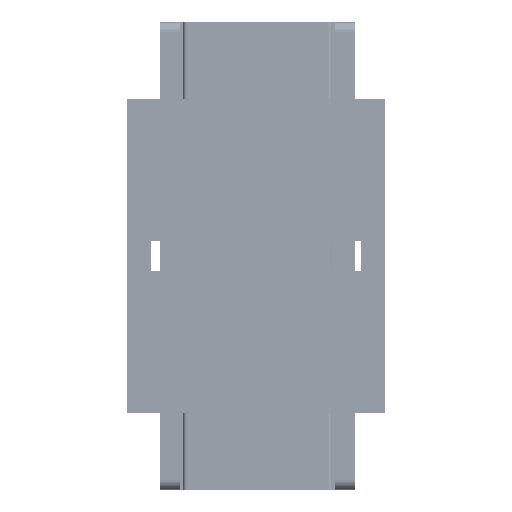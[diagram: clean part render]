
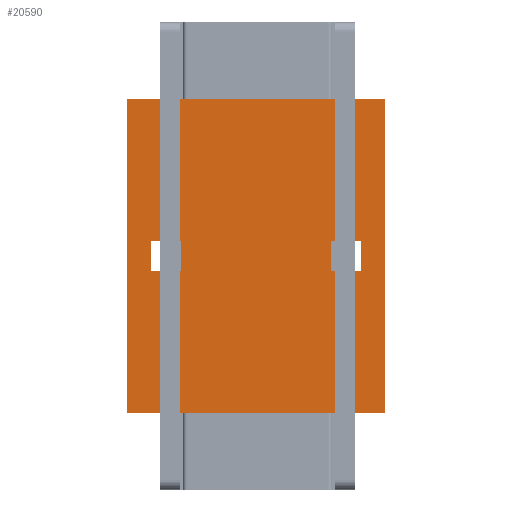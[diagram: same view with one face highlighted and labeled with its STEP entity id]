
A CAD part, front view. The second image highlights one B-rep face of the part: STEP entity #20590.
In plain terms, the highlighted planar face has unit normal (0, -1, 0).
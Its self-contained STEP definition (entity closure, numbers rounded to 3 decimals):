
#219 = EDGE_CURVE ( 'NONE', #34051, #22193, #33786, .T. ) ;
#791 = EDGE_LOOP ( 'NONE', ( #35468, #40361, #14147, #18637 ) ) ;
#1664 = CARTESIAN_POINT ( 'NONE',  ( 4.2, -93., -3. ) ) ;
#2142 = VERTEX_POINT ( 'NONE', #8225 ) ;
#2928 = VECTOR ( 'NONE', #13190, 1000. ) ;
#4402 = EDGE_CURVE ( 'NONE', #9375, #25699, #19380, .T. ) ;
#5137 = VERTEX_POINT ( 'NONE', #10314 ) ;
#5160 = CARTESIAN_POINT ( 'NONE',  ( -3.8, -93., -31.5 ) ) ;
#5878 = DIRECTION ( 'NONE',  ( -1., 0., 0. ) ) ;
#5898 = CARTESIAN_POINT ( 'NONE',  ( 40.2, -93., 3. ) ) ;
#6950 = EDGE_CURVE ( 'NONE', #2142, #37486, #29074, .T. ) ;
#8225 = CARTESIAN_POINT ( 'NONE',  ( 40.2, -93., 3. ) ) ;
#8622 = CARTESIAN_POINT ( 'NONE',  ( -6.8, -93., 17. ) ) ;
#8776 = LINE ( 'NONE', #8622, #2928 ) ;
#9076 = CARTESIAN_POINT ( 'NONE',  ( 40.2, -93., -3. ) ) ;
#9375 = VERTEX_POINT ( 'NONE', #46416 ) ;
#9765 = EDGE_CURVE ( 'NONE', #22193, #42831, #48608, .T. ) ;
#10314 = CARTESIAN_POINT ( 'NONE',  ( 34.2, -93., 3. ) ) ;
#10975 = EDGE_CURVE ( 'NONE', #16653, #9375, #51895, .T. ) ;
#11245 = VECTOR ( 'NONE', #30960, 1000. ) ;
#11889 = VECTOR ( 'NONE', #22171, 1000. ) ;
#11944 = CARTESIAN_POINT ( 'NONE',  ( 4.2, -93., -3. ) ) ;
#12071 = CARTESIAN_POINT ( 'NONE',  ( 41.2, -93., 0. ) ) ;
#13086 = ORIENTED_EDGE ( 'NONE', *, *, #14339, .F. ) ;
#13190 = DIRECTION ( 'NONE',  ( 0., 0., 1. ) ) ;
#13211 = LINE ( 'NONE', #13634, #11889 ) ;
#13634 = CARTESIAN_POINT ( 'NONE',  ( -1.8, -93., 3. ) ) ;
#13792 = LINE ( 'NONE', #5898, #39139 ) ;
#14147 = ORIENTED_EDGE ( 'NONE', *, *, #4402, .T. ) ;
#14339 = EDGE_CURVE ( 'NONE', #42831, #53731, #8776, .T. ) ;
#14838 = VECTOR ( 'NONE', #48050, 1000. ) ;
#15827 = CARTESIAN_POINT ( 'NONE',  ( -1.8, -93., 3. ) ) ;
#16080 = VECTOR ( 'NONE', #19738, 1000. ) ;
#16253 = DIRECTION ( 'NONE',  ( 0., 1., 0. ) ) ;
#16653 = VERTEX_POINT ( 'NONE', #15827 ) ;
#16802 = PLANE ( 'NONE',  #17268 ) ;
#17103 = EDGE_CURVE ( 'NONE', #35302, #5137, #24409, .T. ) ;
#17268 = AXIS2_PLACEMENT_3D ( 'NONE', #12071, #16253, #53703 ) ;
#17759 = VECTOR ( 'NONE', #51603, 1000. ) ;
#18637 = ORIENTED_EDGE ( 'NONE', *, *, #51604, .T. ) ;
#18773 = VERTEX_POINT ( 'NONE', #26092 ) ;
#19380 = LINE ( 'NONE', #1664, #14838 ) ;
#19738 = DIRECTION ( 'NONE',  ( 0., 0., -1. ) ) ;
#20590 = ADVANCED_FACE ( 'NONE', ( #47121, #47783, #49700 ), #16802, .F. ) ;
#20842 = ORIENTED_EDGE ( 'NONE', *, *, #38000, .T. ) ;
#21002 = DIRECTION ( 'NONE',  ( 0., 0., 1. ) ) ;
#22171 = DIRECTION ( 'NONE',  ( 0., 0., 1. ) ) ;
#22193 = VERTEX_POINT ( 'NONE', #26370 ) ;
#22523 = DIRECTION ( 'NONE',  ( 0., 0., -1. ) ) ;
#23604 = ORIENTED_EDGE ( 'NONE', *, *, #6950, .T. ) ;
#23824 = DIRECTION ( 'NONE',  ( 1., 0., 0. ) ) ;
#23944 = ORIENTED_EDGE ( 'NONE', *, *, #24614, .F. ) ;
#24409 = LINE ( 'NONE', #38096, #32835 ) ;
#24614 = EDGE_CURVE ( 'NONE', #53731, #34051, #52894, .T. ) ;
#25699 = VERTEX_POINT ( 'NONE', #11944 ) ;
#26092 = CARTESIAN_POINT ( 'NONE',  ( -1.8, -93., -3. ) ) ;
#26370 = CARTESIAN_POINT ( 'NONE',  ( 45.2, -93., -31.5 ) ) ;
#27504 = EDGE_LOOP ( 'NONE', ( #13086, #51957, #36324, #23944 ) ) ;
#29074 = LINE ( 'NONE', #32103, #16080 ) ;
#30686 = CARTESIAN_POINT ( 'NONE',  ( 34.2, -93., -3. ) ) ;
#30902 = CARTESIAN_POINT ( 'NONE',  ( 4.2, -93., 3. ) ) ;
#30960 = DIRECTION ( 'NONE',  ( 1., 0., 0. ) ) ;
#31884 = ORIENTED_EDGE ( 'NONE', *, *, #17103, .T. ) ;
#32103 = CARTESIAN_POINT ( 'NONE',  ( 40.2, -93., -3. ) ) ;
#32355 = CARTESIAN_POINT ( 'NONE',  ( -6.8, -93., -31.5 ) ) ;
#32474 = CARTESIAN_POINT ( 'NONE',  ( 34.2, -93., -3. ) ) ;
#32646 = EDGE_CURVE ( 'NONE', #18773, #16653, #13211, .T. ) ;
#32835 = VECTOR ( 'NONE', #21002, 1000. ) ;
#33735 = DIRECTION ( 'NONE',  ( -1., 0., 0. ) ) ;
#33786 = LINE ( 'NONE', #43972, #50052 ) ;
#33857 = EDGE_CURVE ( 'NONE', #37486, #35302, #52246, .T. ) ;
#34051 = VERTEX_POINT ( 'NONE', #39003 ) ;
#35302 = VERTEX_POINT ( 'NONE', #32474 ) ;
#35468 = ORIENTED_EDGE ( 'NONE', *, *, #32646, .T. ) ;
#36324 = ORIENTED_EDGE ( 'NONE', *, *, #219, .F. ) ;
#36979 = CARTESIAN_POINT ( 'NONE',  ( -6.8, -93., 31.5 ) ) ;
#37486 = VERTEX_POINT ( 'NONE', #9076 ) ;
#37744 = CARTESIAN_POINT ( 'NONE',  ( -1.8, -93., -3. ) ) ;
#38000 = EDGE_CURVE ( 'NONE', #5137, #2142, #13792, .T. ) ;
#38096 = CARTESIAN_POINT ( 'NONE',  ( 34.2, -93., 3. ) ) ;
#39003 = CARTESIAN_POINT ( 'NONE',  ( 45.2, -93., 31.5 ) ) ;
#39139 = VECTOR ( 'NONE', #23824, 1000. ) ;
#40361 = ORIENTED_EDGE ( 'NONE', *, *, #10975, .T. ) ;
#41458 = VECTOR ( 'NONE', #5878, 1000. ) ;
#42831 = VERTEX_POINT ( 'NONE', #32355 ) ;
#43972 = CARTESIAN_POINT ( 'NONE',  ( 45.2, -93., -26. ) ) ;
#44371 = VECTOR ( 'NONE', #33735, 1000. ) ;
#45141 = ORIENTED_EDGE ( 'NONE', *, *, #33857, .T. ) ;
#46416 = CARTESIAN_POINT ( 'NONE',  ( 4.2, -93., 3. ) ) ;
#46578 = EDGE_LOOP ( 'NONE', ( #31884, #20842, #23604, #45141 ) ) ;
#47121 = FACE_OUTER_BOUND ( 'NONE', #27504, .T. ) ;
#47695 = CARTESIAN_POINT ( 'NONE',  ( 40.2, -93., 31.5 ) ) ;
#47783 = FACE_BOUND ( 'NONE', #791, .T. ) ;
#48050 = DIRECTION ( 'NONE',  ( 0., 0., -1. ) ) ;
#48277 = LINE ( 'NONE', #37744, #44371 ) ;
#48608 = LINE ( 'NONE', #5160, #41458 ) ;
#49700 = FACE_BOUND ( 'NONE', #46578, .T. ) ;
#50052 = VECTOR ( 'NONE', #22523, 1000. ) ;
#50588 = VECTOR ( 'NONE', #51282, 1000. ) ;
#51282 = DIRECTION ( 'NONE',  ( 1., 0., 0. ) ) ;
#51603 = DIRECTION ( 'NONE',  ( -1., 0., 0. ) ) ;
#51604 = EDGE_CURVE ( 'NONE', #25699, #18773, #48277, .T. ) ;
#51895 = LINE ( 'NONE', #30902, #50588 ) ;
#51957 = ORIENTED_EDGE ( 'NONE', *, *, #9765, .F. ) ;
#52246 = LINE ( 'NONE', #30686, #17759 ) ;
#52894 = LINE ( 'NONE', #47695, #11245 ) ;
#53703 = DIRECTION ( 'NONE',  ( 0., 0., 1. ) ) ;
#53731 = VERTEX_POINT ( 'NONE', #36979 ) ;
